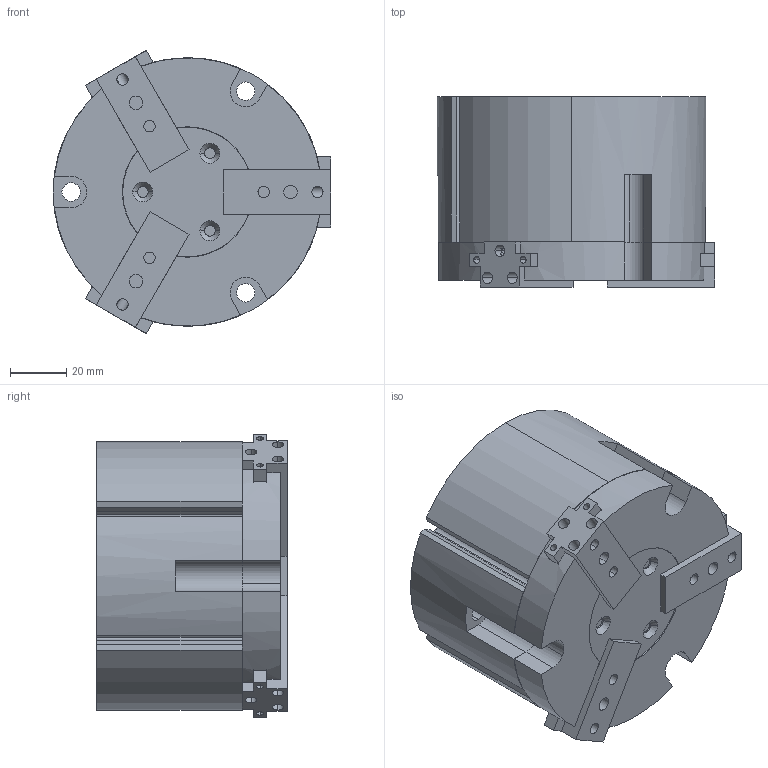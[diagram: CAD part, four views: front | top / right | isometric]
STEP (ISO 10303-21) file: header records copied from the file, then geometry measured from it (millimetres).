
FILE_DESCRIPTION (( 'STEP AP203' ), '1' );
FILE_NAME ('AGP-63 CLOSED in MM.STEP', '2014-11-05T14:38:30', ( 'setup' ), ( '' ), 'SwSTEP 2.0', 'SolidWorks 2013', '' );
FILE_SCHEMA (( 'CONFIG_CONTROL_DESIGN' ));
Length unit declared in the file: millimetre
Products named in the file (5): AGP-63 BODY; AGP-63 JAW; AGP-63 CAP; AGP-63 COVER PLATE; AGP-63 CLOSED in MM
Assembly tree (6 placements, depth 2):
  AGP-63 CLOSED in MM
    AGP-63 BODY
    AGP-63 JAW  x3
    AGP-63 CAP
    AGP-63 COVER PLATE
Bounding box: 98.42 x 67.54 x 100.43 mm (x, y, z)
Volume: 341268 mm3; surface area: 79800.3 mm2
Topology: 6 solids, 6 shells, 340 faces, 935 edges, 592 vertices
Faces by surface type: plane 151, cylinder 146, cone 43
Entity records: 7569 total; most frequent: CARTESIAN_POINT 1259, DIRECTION 1254, ORIENTED_EDGE 1182, EDGE_CURVE 591, AXIS2_PLACEMENT_3D 447, VERTEX_POINT 388, LINE 360, VECTOR 360
